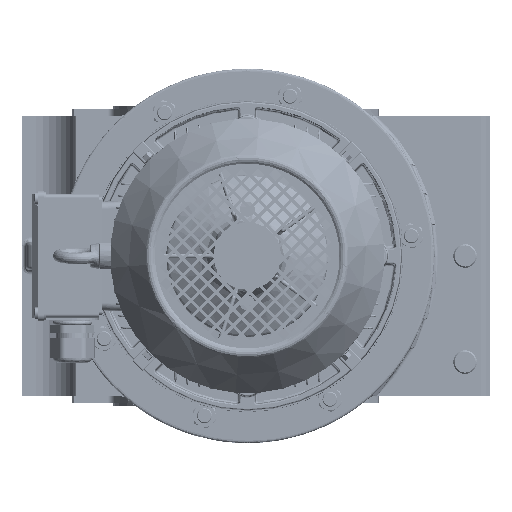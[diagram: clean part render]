
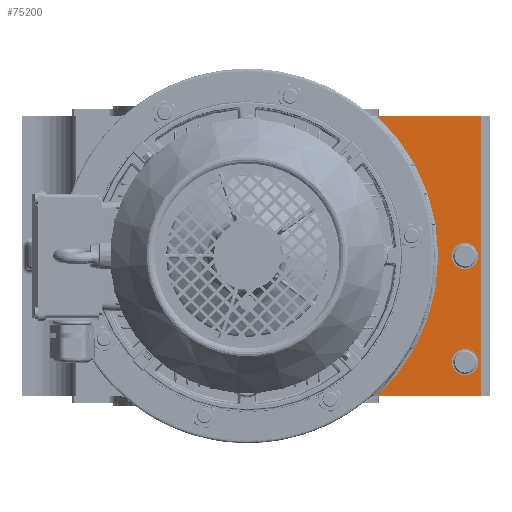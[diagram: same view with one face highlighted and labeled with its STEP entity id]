
A CAD part, left-side view. The second image highlights one B-rep face of the part: STEP entity #75200.
In plain terms, the highlighted planar face has unit normal (-1, 0, 0).
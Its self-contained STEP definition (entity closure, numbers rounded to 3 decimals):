
#5456 = FACE_BOUND ( 'NONE', #161455, .T. ) ;
#5583 = FACE_OUTER_BOUND ( 'NONE', #161530, .T. ) ;
#5652 = FACE_BOUND ( 'NONE', #161542, .T. ) ;
#9043 = EDGE_CURVE ( 'NONE', #227351, #227271, #182324, .T. ) ;
#9088 = EDGE_CURVE ( 'NONE', #227094, #227225, #182292, .T. ) ;
#16796 = DIRECTION ( 'NONE',  ( -1., 0., 0. ) ) ;
#16802 = DIRECTION ( 'NONE',  ( 0., 0., 1. ) ) ;
#16842 = CARTESIAN_POINT ( 'NONE',  ( -264., -209., -112.5 ) ) ;
#16932 = PLANE ( 'NONE',  #89864 ) ;
#43402 = EDGE_CURVE ( 'NONE', #227271, #227351, #218490, .T. ) ;
#43462 = EDGE_CURVE ( 'NONE', #227225, #227094, #218704, .T. ) ;
#75200 = ADVANCED_FACE ( 'NONE', ( #5456, #5652, #5583 ), #16932, .T. ) ;
#86162 = ORIENTED_EDGE ( 'NONE', *, *, #43402, .T. ) ;
#86177 = ORIENTED_EDGE ( 'NONE', *, *, #292750, .F. ) ;
#86217 = ORIENTED_EDGE ( 'NONE', *, *, #292854, .T. ) ;
#86458 = ORIENTED_EDGE ( 'NONE', *, *, #43462, .T. ) ;
#86460 = ORIENTED_EDGE ( 'NONE', *, *, #292730, .T. ) ;
#86483 = ORIENTED_EDGE ( 'NONE', *, *, #9088, .T. ) ;
#86487 = ORIENTED_EDGE ( 'NONE', *, *, #9043, .T. ) ;
#86514 = ORIENTED_EDGE ( 'NONE', *, *, #292727, .T. ) ;
#89864 = AXIS2_PLACEMENT_3D ( 'NONE', #16842, #16796, #16802 ) ;
#113700 = AXIS2_PLACEMENT_3D ( 'NONE', #275331, #275224, #275262 ) ;
#113706 = AXIS2_PLACEMENT_3D ( 'NONE', #275834, #275807, #275845 ) ;
#145349 = AXIS2_PLACEMENT_3D ( 'NONE', #244595, #244585, #244578 ) ;
#145528 = AXIS2_PLACEMENT_3D ( 'NONE', #244564, #244496, #244543 ) ;
#159756 = DIRECTION ( 'NONE',  ( 0., 0., 1. ) ) ;
#159787 = CARTESIAN_POINT ( 'NONE',  ( -264., -205., -112.5 ) ) ;
#161077 = CARTESIAN_POINT ( 'NONE',  ( -264., -209., 112.5 ) ) ;
#161085 = DIRECTION ( 'NONE',  ( 0., 1., 0. ) ) ;
#161100 = DIRECTION ( 'NONE',  ( 0., 0., 1. ) ) ;
#161132 = CARTESIAN_POINT ( 'NONE',  ( -264., -17.5, 0. ) ) ;
#161134 = DIRECTION ( 'NONE',  ( 1., 0., 0. ) ) ;
#161174 = CARTESIAN_POINT ( 'NONE',  ( -264., 160., -112.5 ) ) ;
#161194 = DIRECTION ( 'NONE',  ( 0., 1., 0. ) ) ;
#161455 = EDGE_LOOP ( 'NONE', ( #86487, #86162 ) ) ;
#161530 = EDGE_LOOP ( 'NONE', ( #86514, #86460, #86177, #86217 ) ) ;
#161542 = EDGE_LOOP ( 'NONE', ( #86483, #86458 ) ) ;
#168989 = VERTEX_POINT ( 'NONE', #244241 ) ;
#168995 = VERTEX_POINT ( 'NONE', #244223 ) ;
#168999 = VERTEX_POINT ( 'NONE', #244205 ) ;
#169039 = VERTEX_POINT ( 'NONE', #244235 ) ;
#182292 = CIRCLE ( 'NONE', #145349, 10.5 ) ;
#182324 = CIRCLE ( 'NONE', #145528, 10.5 ) ;
#189175 = AXIS2_PLACEMENT_3D ( 'NONE', #161132, #161134, #161100 ) ;
#208236 = CARTESIAN_POINT ( 'NONE',  ( -264., -192., -95.5 ) ) ;
#208241 = CARTESIAN_POINT ( 'NONE',  ( -264., -192., -74.5 ) ) ;
#208356 = CARTESIAN_POINT ( 'NONE',  ( -264., -192., -10.5 ) ) ;
#208417 = CARTESIAN_POINT ( 'NONE',  ( -264., -192., 10.5 ) ) ;
#218490 = CIRCLE ( 'NONE', #113700, 10.5 ) ;
#218704 = CIRCLE ( 'NONE', #113706, 10.5 ) ;
#225249 = CIRCLE ( 'NONE', #189175, 153. ) ;
#225252 = LINE ( 'NONE', #161174, #225255 ) ;
#225255 = VECTOR ( 'NONE', #161194, 1000. ) ;
#225276 = VECTOR ( 'NONE', #161085, 1000. ) ;
#225321 = LINE ( 'NONE', #161077, #225276 ) ;
#225473 = LINE ( 'NONE', #159787, #225561 ) ;
#225561 = VECTOR ( 'NONE', #159756, 1000. ) ;
#227094 = VERTEX_POINT ( 'NONE', #208241 ) ;
#227225 = VERTEX_POINT ( 'NONE', #208236 ) ;
#227271 = VERTEX_POINT ( 'NONE', #208356 ) ;
#227351 = VERTEX_POINT ( 'NONE', #208417 ) ;
#244205 = CARTESIAN_POINT ( 'NONE',  ( -264., -205., 112.5 ) ) ;
#244223 = CARTESIAN_POINT ( 'NONE',  ( -264., -121.195, -112.5 ) ) ;
#244235 = CARTESIAN_POINT ( 'NONE',  ( -264., -205., -112.5 ) ) ;
#244241 = CARTESIAN_POINT ( 'NONE',  ( -264., -121.195, 112.5 ) ) ;
#244496 = DIRECTION ( 'NONE',  ( 1., 0., 0. ) ) ;
#244543 = DIRECTION ( 'NONE',  ( 0., 0., 1. ) ) ;
#244564 = CARTESIAN_POINT ( 'NONE',  ( -264., -192., 0. ) ) ;
#244578 = DIRECTION ( 'NONE',  ( 0., 0., 1. ) ) ;
#244585 = DIRECTION ( 'NONE',  ( 1., 0., 0. ) ) ;
#244595 = CARTESIAN_POINT ( 'NONE',  ( -264., -192., -85. ) ) ;
#275224 = DIRECTION ( 'NONE',  ( 1., 0., 0. ) ) ;
#275262 = DIRECTION ( 'NONE',  ( 0., 0., 1. ) ) ;
#275331 = CARTESIAN_POINT ( 'NONE',  ( -264., -192., 0. ) ) ;
#275807 = DIRECTION ( 'NONE',  ( 1., 0., 0. ) ) ;
#275834 = CARTESIAN_POINT ( 'NONE',  ( -264., -192., -85. ) ) ;
#275845 = DIRECTION ( 'NONE',  ( 0., 0., 1. ) ) ;
#292727 = EDGE_CURVE ( 'NONE', #168999, #168989, #225321, .T. ) ;
#292730 = EDGE_CURVE ( 'NONE', #168989, #168995, #225249, .T. ) ;
#292750 = EDGE_CURVE ( 'NONE', #169039, #168995, #225252, .T. ) ;
#292854 = EDGE_CURVE ( 'NONE', #169039, #168999, #225473, .T. ) ;
